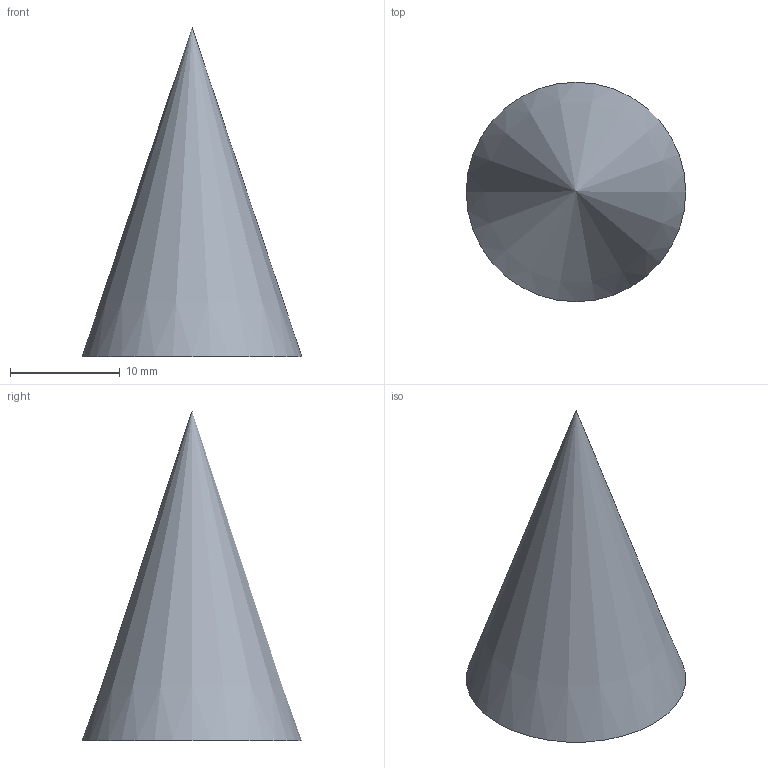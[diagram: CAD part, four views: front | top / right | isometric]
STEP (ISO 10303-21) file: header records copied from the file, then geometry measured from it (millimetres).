
FILE_DESCRIPTION(('step-conformance generated part'),'2;1');
FILE_NAME('cone_point_vertex.step','2026-10-12T00:00:00',(''),(''),'step-conformance generate','step-conformance generate','');
FILE_SCHEMA(('AUTOMOTIVE_DESIGN { 1 0 10303 214 1 1 1 1 }'));
Length unit declared in the file: millimetre
Products named in the file (1): cone_point_vertex
Bounding box: 20 x 20 x 30 mm (x, y, z)
Volume: 3141.6 mm3; surface area: 1307.6 mm2
Topology: 1 solids, 1 shells, 2 faces, 3 edges, 2 vertices
Faces by surface type: plane 1, cone 1
Entity records: 47 total; most frequent: DIRECTION 8, CARTESIAN_POINT 6, AXIS2_PLACEMENT_3D 4, VERTEX_POINT 2, ORIENTED_EDGE 2, EDGE_LOOP 2, FACE_OUTER_BOUND 2, ADVANCED_FACE 2
